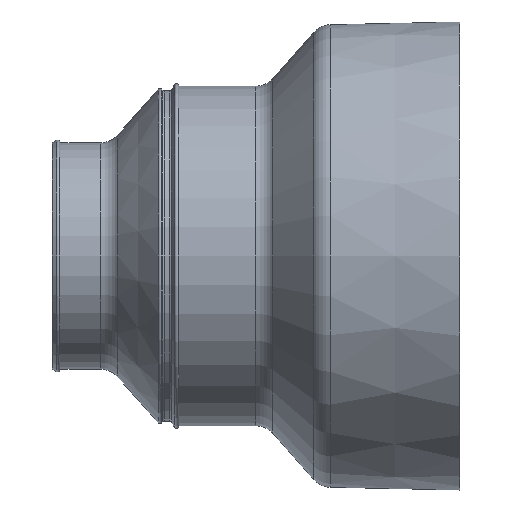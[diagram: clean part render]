
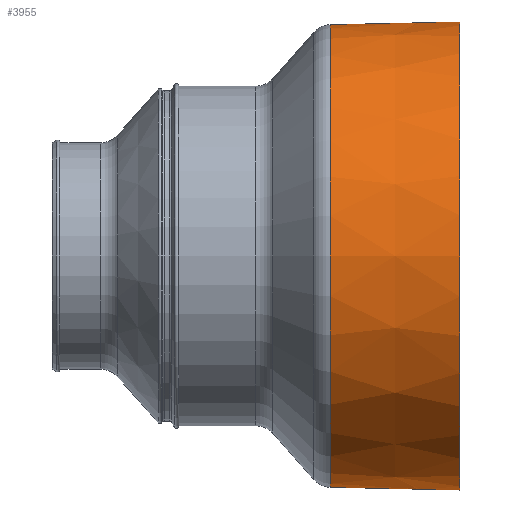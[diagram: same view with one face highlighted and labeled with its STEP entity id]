
A CAD part, front view. The second image highlights one B-rep face of the part: STEP entity #3955.
In plain terms, the highlighted conical face has half-angle 1.202 degrees and reference radius 51.374 mm.
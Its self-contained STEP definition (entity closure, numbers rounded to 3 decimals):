
#20=DIRECTION('',(-1.,0.,-0.021));
#21=VECTOR('',#20,19.068);
#22=CARTESIAN_POINT('',(-9.553,0.,51.474));
#23=LINE('',#22,#21);
#24=DIRECTION('',(-1.,0.,-0.021));
#25=VECTOR('',#24,6.445);
#26=CARTESIAN_POINT('',(0.,0.,51.674));
#27=LINE('',#26,#25);
#28=CARTESIAN_POINT('',(-9.553,0.,-51.474));
#29=CARTESIAN_POINT('',(-9.553,-0.14,
-51.474));
#30=CARTESIAN_POINT('',(-9.516,-0.408,
-51.473));
#31=CARTESIAN_POINT('',(-9.36,-0.786,
-51.472));
#32=CARTESIAN_POINT('',(-9.113,-1.107,-51.471));
#33=CARTESIAN_POINT('',(-8.794,-1.355,-51.472));
#34=CARTESIAN_POINT('',(-8.417,-1.515,-51.475));
#35=CARTESIAN_POINT('',(-7.998,-1.573,-51.482));
#36=CARTESIAN_POINT('',(-7.585,-1.517,-51.493));
#37=CARTESIAN_POINT('',(-7.205,-1.357,-51.505));
#38=CARTESIAN_POINT('',(-6.88,-1.105,-51.518));
#39=CARTESIAN_POINT('',(-6.633,-0.78,
-51.53));
#40=CARTESIAN_POINT('',(-6.479,-0.401,
-51.537));
#41=CARTESIAN_POINT('',(-6.443,-0.137,
-51.539));
#42=CARTESIAN_POINT('',(-6.443,0.,-51.539));
#44=DIRECTION('',(-1.,0.,0.021));
#45=VECTOR('',#44,19.068);
#46=CARTESIAN_POINT('',(-9.553,0.,-51.474));
#47=LINE('',#46,#45);
#48=CARTESIAN_POINT('',(-6.443,0.,-51.539));
#64=DIRECTION('',(-1.,0.,0.021));
#65=VECTOR('',#64,6.445);
#66=CARTESIAN_POINT('',(0.,0.,-51.674));
#67=LINE('',#66,#65);
#3241=CARTESIAN_POINT('',(0.,0.,0.));
#3242=DIRECTION('',(1.,0.,0.));
#3243=DIRECTION('',(0.,0.,1.));
#3244=AXIS2_PLACEMENT_3D('',#3241,#3242,#3243);
#3270=CARTESIAN_POINT('',(-28.617,0.,0.));
#3271=DIRECTION('',(-1.,0.,0.));
#3272=DIRECTION('',(0.,0.,-1.));
#3273=AXIS2_PLACEMENT_3D('',#3270,#3271,#3272);
#3304=CARTESIAN_POINT('',(-9.553,0.,51.474));
#3305=CARTESIAN_POINT('',(-9.553,-0.135,
51.474));
#3306=CARTESIAN_POINT('',(-9.518,-0.405,
51.473));
#3307=CARTESIAN_POINT('',(-9.36,-0.786,
51.472));
#3308=CARTESIAN_POINT('',(-9.107,-1.114,
51.471));
#3309=CARTESIAN_POINT('',(-8.783,-1.362,
51.472));
#3310=CARTESIAN_POINT('',(-8.394,-1.522,
51.476));
#3311=CARTESIAN_POINT('',(-7.978,-1.572,
51.483));
#3312=CARTESIAN_POINT('',(-7.569,-1.512,
51.493));
#3313=CARTESIAN_POINT('',(-7.189,-1.347,
51.506));
#3314=CARTESIAN_POINT('',(-6.876,-1.1,
51.519));
#3315=CARTESIAN_POINT('',(-6.631,-0.777,
51.53));
#3316=CARTESIAN_POINT('',(-6.478,-0.402,
51.537));
#3317=CARTESIAN_POINT('',(-6.443,-0.134,
51.539));
#3318=CARTESIAN_POINT('',(-6.443,0.,51.539));
#3340=CARTESIAN_POINT('',(-9.553,0.,-51.474));
#3342=VERTEX_POINT('',#3340);
#3346=VERTEX_POINT('',#48);
#3351=CARTESIAN_POINT('',(-9.553,0.,51.474));
#3352=VERTEX_POINT('',#3351);
#3353=VERTEX_POINT('',#3318);
#3518=CARTESIAN_POINT('',(-28.617,0.,51.074));
#3519=VERTEX_POINT('',#3518);
#3520=CARTESIAN_POINT('',(-28.617,0.,-51.074));
#3521=VERTEX_POINT('',#3520);
#3602=CARTESIAN_POINT('',(0.,0.,51.674));
#3603=VERTEX_POINT('',#3602);
#3604=CARTESIAN_POINT('',(0.,0.,-51.674));
#3605=VERTEX_POINT('',#3604);
#3933=CARTESIAN_POINT('',(-14.309,0.,0.));
#3934=DIRECTION('',(1.,0.,0.));
#3935=DIRECTION('',(0.,0.,-1.));
#3936=AXIS2_PLACEMENT_3D('',#3933,#3934,#3935);
#3937=CONICAL_SURFACE('',#3936,51.374,1.202);
#3939=ORIENTED_EDGE('',*,*,#3938,.F.);
#3941=ORIENTED_EDGE('',*,*,#3940,.T.);
#3943=ORIENTED_EDGE('',*,*,#3942,.F.);
#3945=ORIENTED_EDGE('',*,*,#3944,.T.);
#3947=ORIENTED_EDGE('',*,*,#3946,.T.);
#3948=ORIENTED_EDGE('',*,*,#3926,.F.);
#3950=ORIENTED_EDGE('',*,*,#3949,.T.);
#3952=ORIENTED_EDGE('',*,*,#3951,.T.);
#3953=EDGE_LOOP('',(#3939,#3941,#3943,#3945,#3947,#3948,#3950,#3952));
#3954=FACE_OUTER_BOUND('',#3953,.F.);
#3955=ADVANCED_FACE('',(#3954),#3937,.T.);
#43=B_SPLINE_CURVE_WITH_KNOTS('',3,(#28,#29,#30,#31,#32,#33,#34,#35,#36,#37,#38,
#39,#40,#41,#42),.UNSPECIFIED.,.F.,.F.,(4,1,1,1,1,1,1,1,1,1,1,1,4),(0.,
0.083,0.167,0.25,0.333,0.417,
0.5,0.583,0.667,0.75,0.833,
0.917,1.),.UNSPECIFIED.);
#3245=CIRCLE('',#3244,51.674);
#3274=CIRCLE('',#3273,51.074);
#3319=B_SPLINE_CURVE_WITH_KNOTS('',3,(#3304,#3305,#3306,#3307,#3308,#3309,#3310,
#3311,#3312,#3313,#3314,#3315,#3316,#3317,#3318),.UNSPECIFIED.,.F.,.F.,(4,1,1,1,
1,1,1,1,1,1,1,1,4),(0.,0.083,0.167,0.25,
0.333,0.417,0.5,0.583,0.667,
0.75,0.833,0.917,1.),.UNSPECIFIED.);
#3926=EDGE_CURVE('',#3342,#3346,#43,.T.);
#3938=EDGE_CURVE('',#3352,#3519,#23,.T.);
#3940=EDGE_CURVE('',#3352,#3353,#3319,.T.);
#3942=EDGE_CURVE('',#3603,#3353,#27,.T.);
#3944=EDGE_CURVE('',#3603,#3605,#3245,.T.);
#3946=EDGE_CURVE('',#3605,#3346,#67,.T.);
#3949=EDGE_CURVE('',#3342,#3521,#47,.T.);
#3951=EDGE_CURVE('',#3521,#3519,#3274,.T.);
